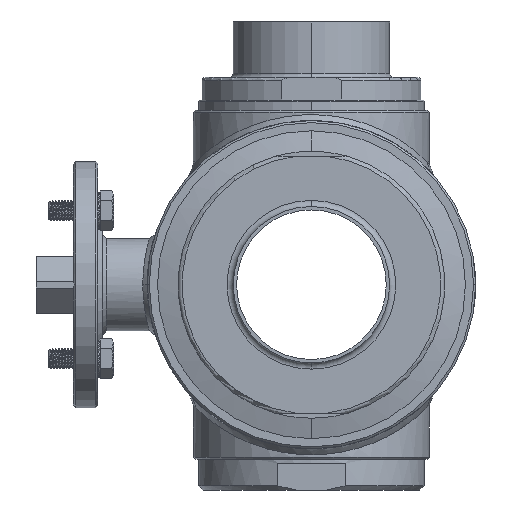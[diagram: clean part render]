
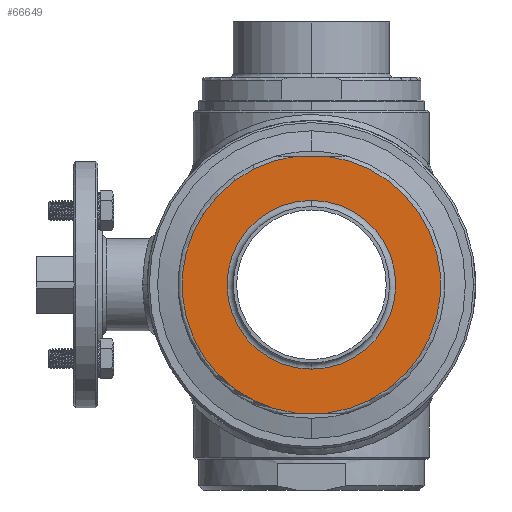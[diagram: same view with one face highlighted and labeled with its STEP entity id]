
A CAD part, left-side view. The second image highlights one B-rep face of the part: STEP entity #66649.
In plain terms, the highlighted planar face has unit normal (-1, 0, 0).
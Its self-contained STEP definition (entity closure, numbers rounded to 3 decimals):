
#1905=DIRECTION('',(0.,-1.,0.));
#1906=VECTOR('',#1905,15.843);
#1907=CARTESIAN_POINT('',(-101.,7.921,62.5));
#1908=LINE('',#1907,#1906);
#1912=DIRECTION('',(0.,-1.,0.));
#1913=VECTOR('',#1912,15.843);
#1914=CARTESIAN_POINT('',(-101.,7.921,-62.5));
#1915=LINE('',#1914,#1913);
#1980=CARTESIAN_POINT('',(-101.,0.,0.));
#1981=DIRECTION('',(-1.,0.,0.));
#1982=DIRECTION('',(0.,0.126,0.992));
#1983=AXIS2_PLACEMENT_3D('',#1980,#1981,#1982);
#2076=CARTESIAN_POINT('',(-101.,0.,0.));
#2077=DIRECTION('',(-1.,0.,0.));
#2078=DIRECTION('',(0.,-0.126,-0.992));
#2079=AXIS2_PLACEMENT_3D('',#2076,#2077,#2078);
#2116=CARTESIAN_POINT('',(-101.,0.,0.));
#2117=DIRECTION('',(-1.,0.,0.));
#2118=DIRECTION('',(0.,0.,-1.));
#2119=AXIS2_PLACEMENT_3D('',#2116,#2117,#2118);
#2148=CARTESIAN_POINT('',(-101.,0.,0.));
#2149=DIRECTION('',(-1.,0.,0.));
#2150=DIRECTION('',(0.,0.,1.));
#2151=AXIS2_PLACEMENT_3D('',#2148,#2149,#2150);
#62682=CARTESIAN_POINT('',(-101.,-7.921,-62.5));
#62683=CARTESIAN_POINT('',(-101.,-7.921,62.5));
#62684=VERTEX_POINT('',#62682);
#62685=VERTEX_POINT('',#62683);
#62690=CARTESIAN_POINT('',(-101.,7.921,62.5));
#62691=CARTESIAN_POINT('',(-101.,7.921,-62.5));
#62692=VERTEX_POINT('',#62690);
#62693=VERTEX_POINT('',#62691);
#62694=CARTESIAN_POINT('',(-101.,0.,41.1));
#62695=CARTESIAN_POINT('',(-101.,0.,-41.1));
#62696=VERTEX_POINT('',#62694);
#62697=VERTEX_POINT('',#62695);
#66629=CARTESIAN_POINT('',(-101.,0.,0.));
#66630=DIRECTION('',(-1.,0.,0.));
#66631=DIRECTION('',(0.,-1.,0.));
#66632=AXIS2_PLACEMENT_3D('',#66629,#66630,#66631);
#66633=PLANE('',#66632);
#66635=ORIENTED_EDGE('',*,*,#66634,.T.);
#66637=ORIENTED_EDGE('',*,*,#66636,.F.);
#66638=ORIENTED_EDGE('',*,*,#66615,.F.);
#66640=ORIENTED_EDGE('',*,*,#66639,.F.);
#66641=EDGE_LOOP('',(#66635,#66637,#66638,#66640));
#66642=FACE_OUTER_BOUND('',#66641,.F.);
#66644=ORIENTED_EDGE('',*,*,#66643,.T.);
#66646=ORIENTED_EDGE('',*,*,#66645,.T.);
#66647=EDGE_LOOP('',(#66644,#66646));
#66648=FACE_BOUND('',#66647,.F.);
#66649=ADVANCED_FACE('',(#66642,#66648),#66633,.T.);
#1984=CIRCLE('',#1983,63.);
#2080=CIRCLE('',#2079,63.);
#2120=CIRCLE('',#2119,41.1);
#2152=CIRCLE('',#2151,41.1);
#66615=EDGE_CURVE('',#62693,#62684,#1915,.T.);
#66634=EDGE_CURVE('',#62692,#62685,#1908,.T.);
#66636=EDGE_CURVE('',#62684,#62685,#2080,.T.);
#66639=EDGE_CURVE('',#62692,#62693,#1984,.T.);
#66643=EDGE_CURVE('',#62697,#62696,#2120,.T.);
#66645=EDGE_CURVE('',#62696,#62697,#2152,.T.);
